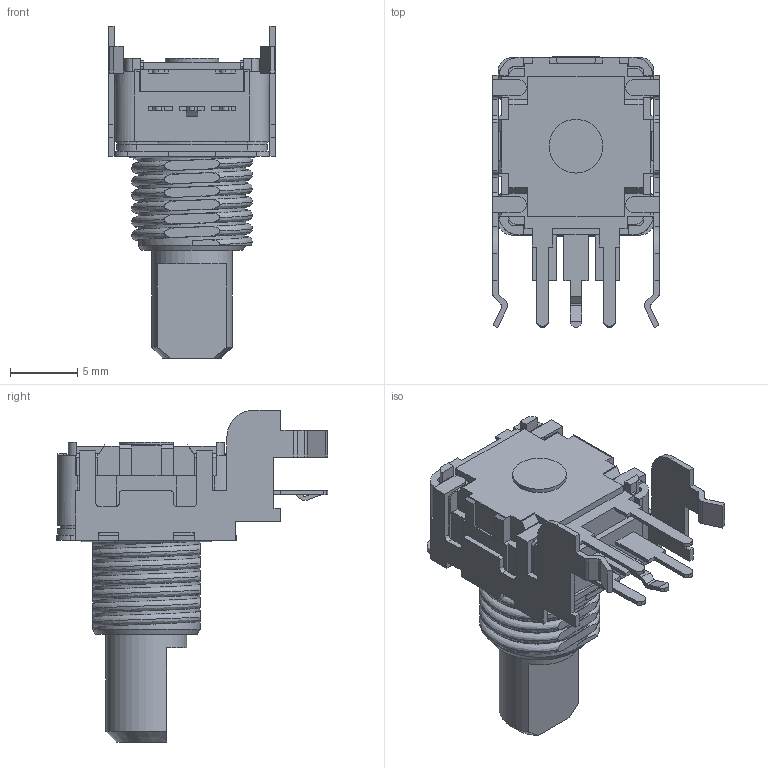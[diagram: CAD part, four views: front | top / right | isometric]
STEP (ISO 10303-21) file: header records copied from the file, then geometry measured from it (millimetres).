
FILE_DESCRIPTION((''),'2;1');
FILE_NAME('\\Forward-ks-ad\開發專區\高雄廠設計課\設計機種開發作業\量產機種專案\絕緣軸\RD12S\RD12S-新版\3D\RD12S-H\K121S0H-F11-0.stp','2019-05-07T17:16:42',('kak13012'),(''),'Autodesk Inventor 2010','Autodesk Inventor 2010','');
FILE_SCHEMA(('AUTOMOTIVE_DESIGN { 1 0 10303 214 1 1 1 1 }'));
Length unit declared in the file: millimetre
Products named in the file (1): K121S0H-F11-0
Bounding box: 12.4 x 20.2 x 24.7 mm (x, y, z)
Volume: 1355 mm3; surface area: 2604.7 mm2
Topology: 1 solids, 3 shells, 690 faces, 1900 edges, 1221 vertices
Faces by surface type: plane 484, cylinder 129, bspline 66, cone 7, torus 4
Full cylindrical faces by diameter (mm): 0.62 x2, 1 x6, 1.1 x4, 1.2 x1, 1.3 x6, 3.76 x1, 4 x1, 4.5 x1, 6 x1, 6.1 x1, 6.12 x1, 7 x1, 8.6 x1, 9.2 x1
Entity records: 24885 total; most frequent: CARTESIAN_POINT 7334, ORIENTED_EDGE 3716, DIRECTION 3364, EDGE_CURVE 1858, VECTOR 1460, LINE 1460, VERTEX_POINT 1215, AXIS2_PLACEMENT_3D 952
